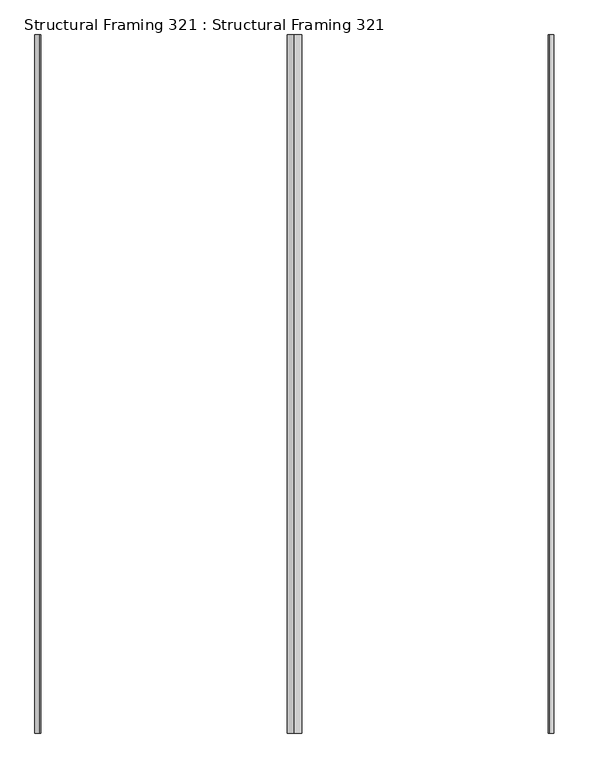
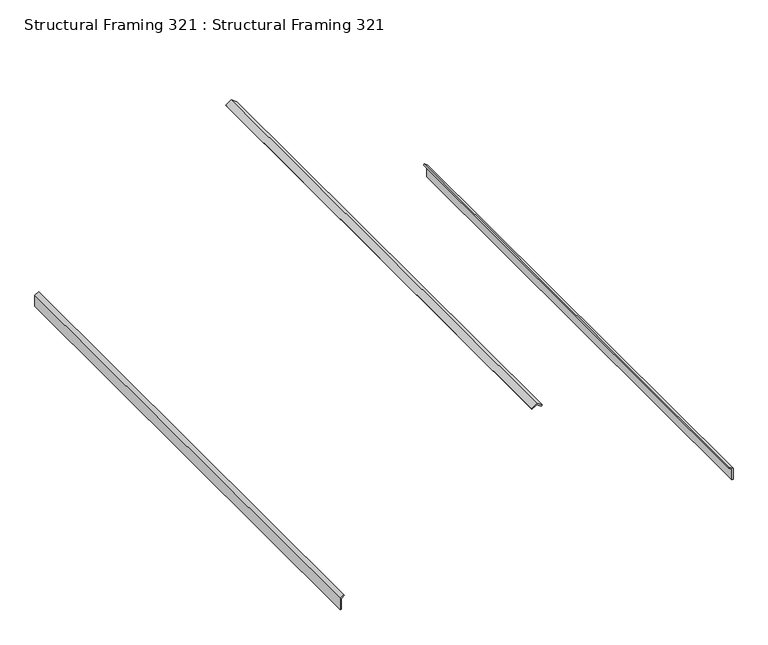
"""IFC4 building model written with IfcOpenShell, lengths in millimetres: beam geometry, Structural Framing 321 : Structural Framing 321."""

from ifc_helpers import new_model, si_unit, frame, origin, place, context, project, spatial, polyline, outline, extrude, source, transform, mapped, element, save


def structural_framing_321_structural_framing_321_04959c51(model_context):
    return source(origin(), model_context, "Body", "SweptSolid", [
        extrude(outline(polyline([(81.6513175, -2719.0115151), (125.9436451, -2655.7555158), (146.6596907, -2669.7499953), (94.6612147, -2744.0115151), (-144.1919814, -2744.0115151), (-144.1919814, -2719.0115151), (81.6513175, -2719.0115151)])), frame((0.0, -6702.9048058, 0.0), z_axis=(0.0, 1.0, 0.0), x_axis=(0.0, 0.0, 1.0)), (0.0, 0.0, 1.0), 10628.455608),
        extrude(outline(polyline([(81.6513175, 5132.5693297), (-144.1919814, 5132.5693297), (-144.1919814, 5157.5693297), (94.6612147, 5157.5693297), (146.6596907, 5083.3078098), (125.9436451, 5069.3133303), (81.6513175, 5132.5693297)])), frame((0.0, -6702.9048058, 0.0), z_axis=(0.0, 1.0, 0.0), x_axis=(0.0, 0.0, 1.0)), (0.0, 0.0, 1.0), 10628.455608),
        extrude(outline(polyline([(2763.1211575, 1110.5242919), (2830.5193647, 1206.7789073), (2763.1211575, 1303.0335226), (2783.837203, 1317.0280021), (2861.0344503, 1206.7789073), (2783.837203, 1096.5298124), (2763.1211575, 1110.5242919)])), frame((0.0, -6702.9048058, 0.0), z_axis=(0.0, 1.0, 0.0), x_axis=(0.0, 0.0, 1.0)), (0.0, 0.0, 1.0), 10628.455608),
    ])


if __name__ == "__main__":
    model = new_model("IFC4")
    model_context = context("Model", 3, world=origin())
    ifc_project = project(units=[si_unit("LENGTHUNIT", "METRE", prefix="MILLI")], contexts=[model_context])
    site = spatial("IfcSite", under=ifc_project)
    building = spatial("IfcBuilding", under=site)
    placement = place(None, origin())
    structural_framing_321_structural_framing_321_shape = structural_framing_321_structural_framing_321_04959c51(model_context)
    element("IfcBeam", 1, ObjectType="Structural Framing 321 : Structural Framing 321", at=placement, inside=building, context=model_context, shape_type="MappedRepresentation", body=[
        mapped(structural_framing_321_structural_framing_321_shape, transform((0.0, 0.0, 0.0), x_axis=(1.0, 0.0, 0.0), y_axis=(0.0, 1.0, 0.0), z_axis=(0.0, 0.0, 1.0))),
    ])
    save(model, "model.ifc")
